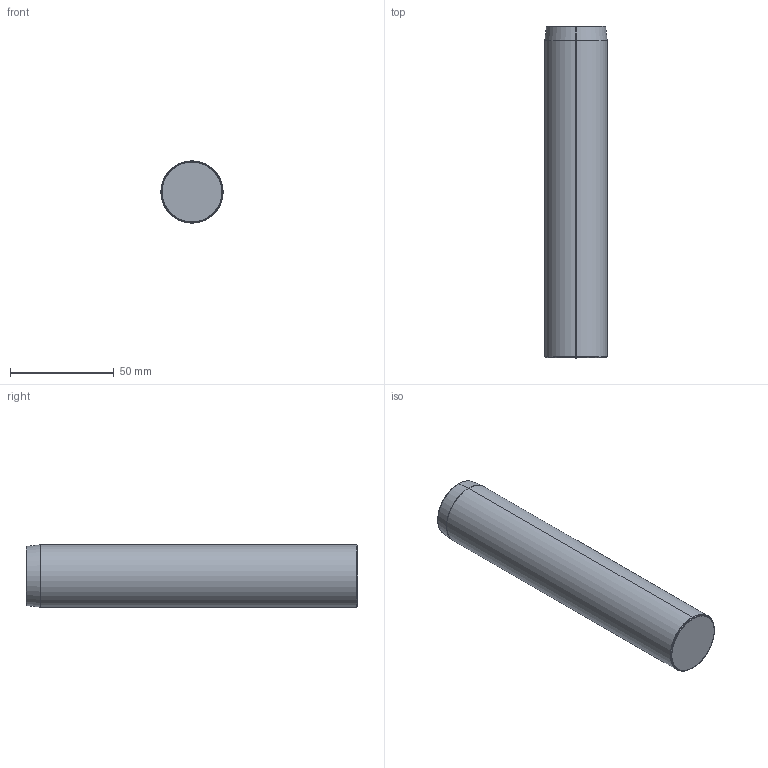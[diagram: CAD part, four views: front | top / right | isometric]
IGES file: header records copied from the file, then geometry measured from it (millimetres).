
Start section: SolidWorks IGES file using analytic representation for surfaces
Global section: file name: C:\Documents and Settings\kalite-mail\Desktop\IGS\D09\D09 30X160.IGS; native system: SolidWorks 2008; preprocessor: SolidWorks 2008; author: kalite-mail; date: 080707.122903; units: millimetre
Bounding box: 30 x 160 x 30 mm (x, y, z)
Surface area: 16372.5 mm2 (no closed solid volume)
Topology: 0 solids, 0 shells, 20 faces, 200 edges, 200 vertices
Faces by surface type: bspline 12, revolution 8
